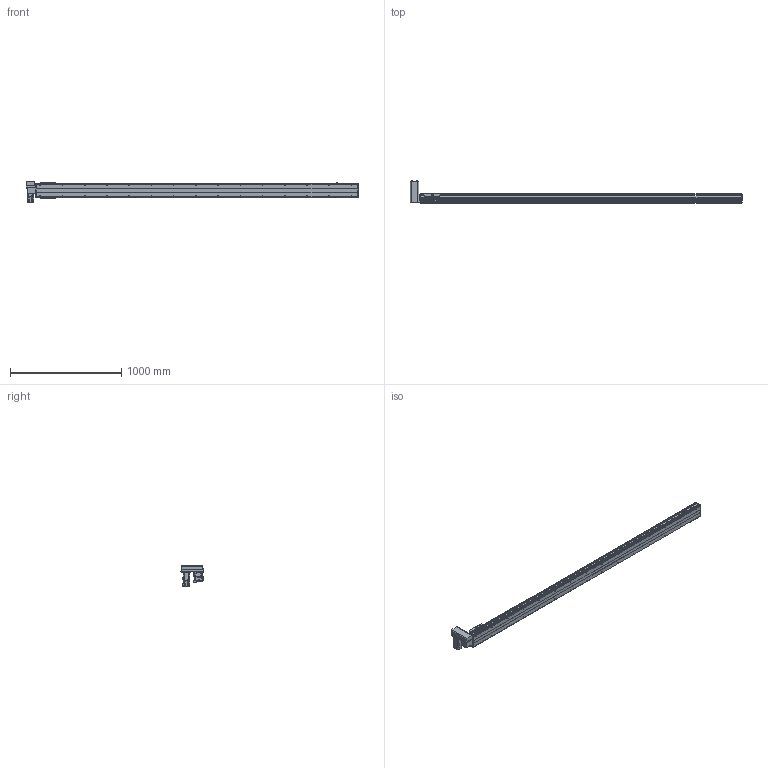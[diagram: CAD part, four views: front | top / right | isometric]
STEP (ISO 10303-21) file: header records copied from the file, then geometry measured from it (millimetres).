
FILE_DESCRIPTION(/* description */ ('STEP AP214'),/* implementation_level */ '2;1');
FILE_NAME(/* name */ 'PBS120-P40-S2600-RU-T40-C1-N(0)',/* time_stamp */ '2022-06-06T02:51:45+02:00',/* author */ ('License CC BY-ND 4.0'),/* organization */ ('CADENAS'),/* preprocessor_version */ 'ST-DEVELOPER v18.102',/* originating_system */ 'PARTsolutions',/* authorisation */ ' ');
FILE_SCHEMA (('AUTOMOTIVE_DESIGN {1 0 10303 214 3 1 1}'));
Length unit declared in the file: millimetre
Products named in the file (7): PBS120-P40-S2600-RU-T40-C1-N(0); PBS120_sensor; PBS120_plant; PBS120_sliser; T40-p1; PBS120T-RU_motors; PBS120-S2600()_body
Assembly tree (8 placements, depth 2):
  PBS120-P40-S2600-RU-T40-C1-N(0)
    PBS120_sensor  x3
    PBS120_plant
    PBS120_sliser
    T40-p1
    PBS120T-RU_motors
    PBS120-S2600()_body
Bounding box: 2986 x 198 x 189.7 mm (x, y, z)
Volume: 11169324.3 mm3; surface area: 2312716.6 mm2
Topology: 8 solids, 8 shells, 870 faces, 2226 edges, 1429 vertices
Faces by surface type: plane 563, cylinder 243, cone 62, torus 2
Full cylindrical faces by diameter (mm): 2.459 x6, 3.242 x4, 4 x2, 4.134 x4, 4.5 x10, 4.917 x34, 5.5 x11, 6 x2, 6.6 x1, 7 x2, 8.5 x4, 9 x4, 12 x1, 14 x1, 30 x2, 40 x1, 50 x2
Entity records: 22434 total; most frequent: DIRECTION 3908, CARTESIAN_POINT 3803, ORIENTED_EDGE 3586, EDGE_CURVE 1793, AXIS2_PLACEMENT_3D 1340, VERTEX_POINT 1235, LINE 1228, VECTOR 1228
